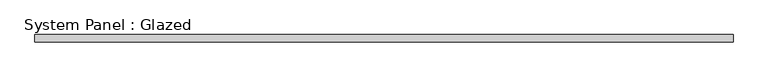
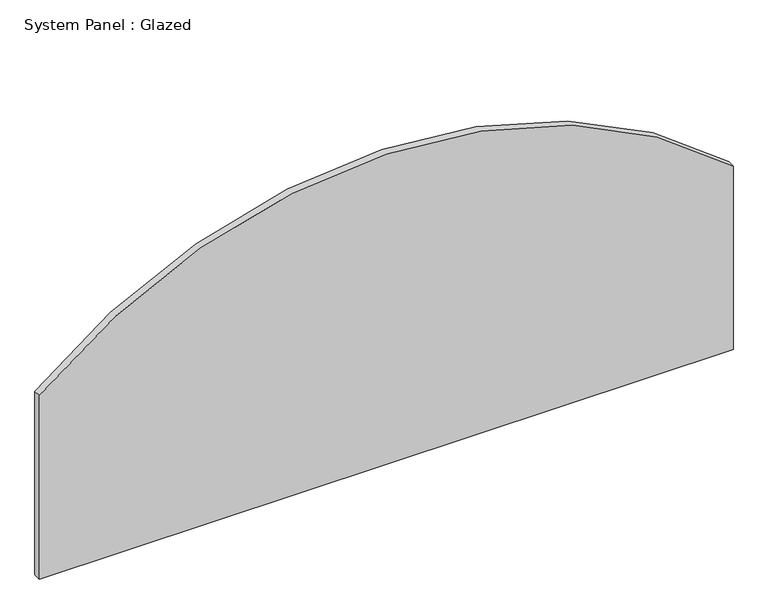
"""IFC4 building model written with IfcOpenShell, lengths in millimetres: plate geometry, System Panel : Glazed."""

from ifc_helpers import new_model, si_unit, point, frame, frame_2d, origin, place, context, project, spatial, polyline, circle_curve, trimmed, segment, composite_curve, outline, extrude, source, transform, mapped, element, save


def system_panel_glazed_0b92bbc0(model_context):
    return source(origin(), model_context, "Body", "SweptSolid", [
        extrude(outline(composite_curve([segment(polyline([(0.0, -1187.45), (0.0, 1187.45), (664.8837415, 1187.45)]), True, "CONTINUOUS"), segment(trimmed(circle_curve(frame_2d((-641.35, 0.0)), 1765.3), [point((664.8837415, 1187.45))], [point((664.8837415, -1187.45))], False, "CARTESIAN"), True, "CONTINUOUS"), segment(polyline([(664.8837415, -1187.45), (0.0, -1187.45)]), True, "CONTINUOUS")], self_intersect=False)), frame((0.0, 19.05, 0.0), z_axis=(0.0, 1.0, 0.0), x_axis=(0.0, 0.0, 1.0)), (0.0, 0.0, 1.0), 25.4),
    ])


if __name__ == "__main__":
    model = new_model("IFC4")
    model_context = context("Model", 3, world=origin())
    ifc_project = project(units=[si_unit("LENGTHUNIT", "METRE", prefix="MILLI")], contexts=[model_context])
    site = spatial("IfcSite", under=ifc_project)
    building = spatial("IfcBuilding", under=site)
    placement = place(None, origin())
    system_panel_glazed_shape = system_panel_glazed_0b92bbc0(model_context)
    element("IfcPlate", 1, ObjectType="System Panel : Glazed", at=placement, inside=building, context=model_context, shape_type="MappedRepresentation", body=[
        mapped(system_panel_glazed_shape, transform((0.0, 0.0, 0.0), x_axis=(1.0, 0.0, 0.0), y_axis=(0.0, 1.0, 0.0), z_axis=(0.0, 0.0, 1.0))),
    ])
    save(model, "model.ifc")
